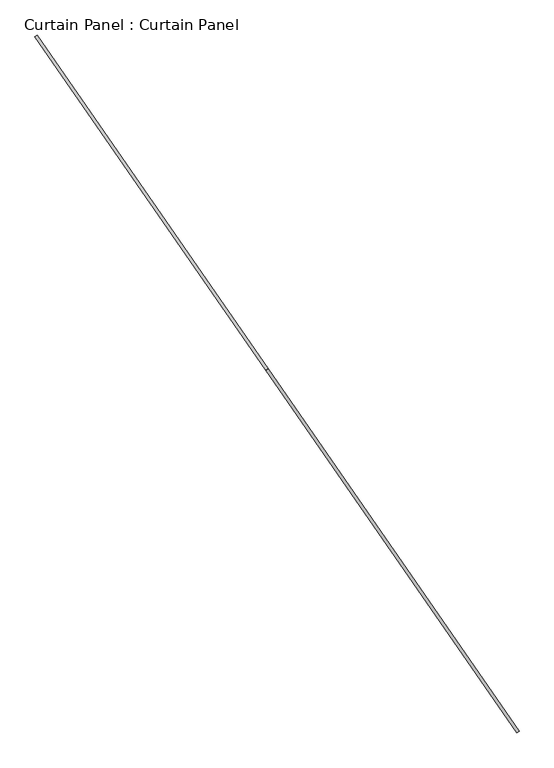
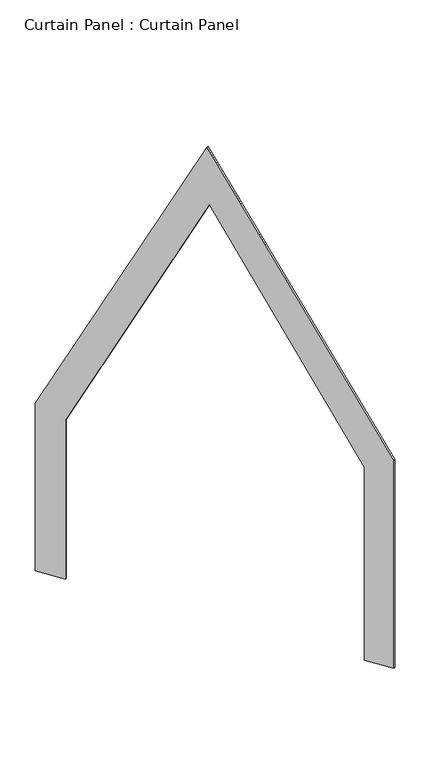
"""IFC4 building model written with IfcOpenShell, lengths in millimetres: plate geometry, Curtain Panel : Curtain Panel."""

from ifc_helpers import new_model, si_unit, frame, origin, place, context, project, spatial, polyline, outline, extrude, source, transform, mapped, element, save


def curtain_panel_curtain_panel_dfcd8e99(model_context):
    return source(origin(), model_context, "Body", "SweptSolid", [
        extrude(outline(polyline([(4488.1538557, 0.0), (4488.1538557, -582.4818049), (-27.2255649, -582.4818049), (-5711.8461436, 3093.006869), (857.6360024, 6475.6956048), (4488.1538557, 6475.6956048), (4488.1538557, 5877.4729876), (1046.3638147, 5877.4729876), (-4471.7344237, 3048.7313479), (300.7582945, 0.0), (4488.1538557, 0.0)])), frame((-9268.1210351, 4923.1173905, 4788.1538557), z_axis=(0.8223851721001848, 0.5689311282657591, 0.0), x_axis=(0.0, 0.0, -1.0)), (0.0, 0.0, 1.0), 25.0),
    ])


if __name__ == "__main__":
    model = new_model("IFC4")
    model_context = context("Model", 3, world=origin())
    ifc_project = project(units=[si_unit("LENGTHUNIT", "METRE", prefix="MILLI")], contexts=[model_context])
    site = spatial("IfcSite", under=ifc_project)
    building = spatial("IfcBuilding", under=site)
    placement = place(None, origin())
    curtain_panel_curtain_panel_shape = curtain_panel_curtain_panel_dfcd8e99(model_context)
    element("IfcPlate", 1, ObjectType="Curtain Panel : Curtain Panel", at=placement, inside=building, context=model_context, shape_type="MappedRepresentation", body=[
        mapped(curtain_panel_curtain_panel_shape, transform((0.0, 0.0, 0.0), x_axis=(1.0, 0.0, 0.0), y_axis=(0.0, 1.0, 0.0), z_axis=(0.0, 0.0, 1.0))),
    ])
    save(model, "model.ifc")
